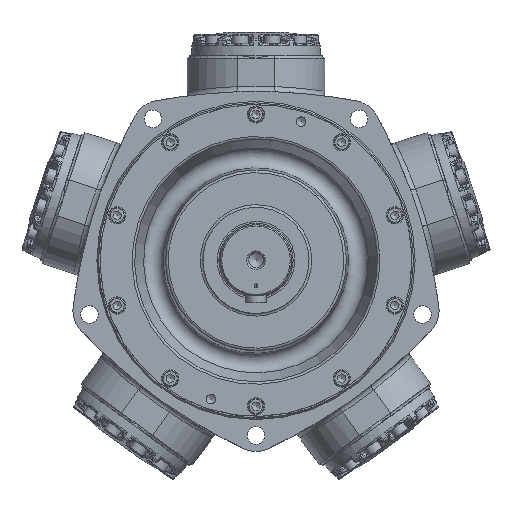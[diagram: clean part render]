
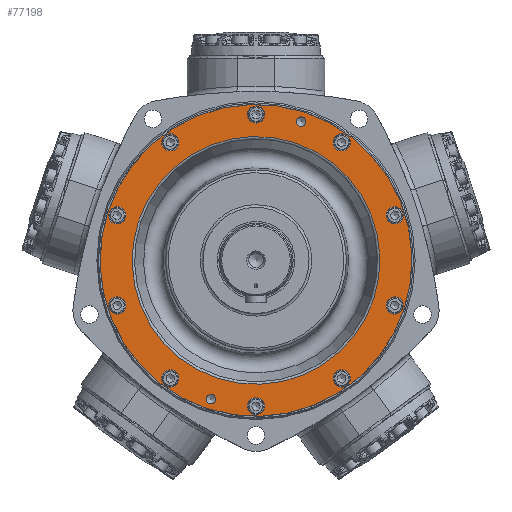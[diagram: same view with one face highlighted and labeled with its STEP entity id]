
A CAD part, top view. The second image highlights one B-rep face of the part: STEP entity #77198.
In plain terms, the highlighted planar face has unit normal (0, 0, 1).
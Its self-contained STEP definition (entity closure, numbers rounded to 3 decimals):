
#2918=FACE_BOUND('',#18618,.T.);
#2919=FACE_BOUND('',#18619,.T.);
#2920=FACE_BOUND('',#18620,.T.);
#2921=FACE_BOUND('',#18621,.T.);
#2922=FACE_BOUND('',#18622,.T.);
#2923=FACE_BOUND('',#18623,.T.);
#2924=FACE_BOUND('',#18624,.T.);
#2925=FACE_BOUND('',#18625,.T.);
#2926=FACE_BOUND('',#18626,.T.);
#2927=FACE_BOUND('',#18627,.T.);
#2928=FACE_BOUND('',#18628,.T.);
#2929=FACE_BOUND('',#18629,.T.);
#2930=FACE_BOUND('',#18630,.T.);
#5169=CIRCLE('',#82765,148.273);
#5180=CIRCLE('',#82784,186.628);
#5181=CIRCLE('',#82785,5.664);
#5182=CIRCLE('',#82786,5.664);
#5183=CIRCLE('',#82787,10.319);
#5184=CIRCLE('',#82788,10.319);
#5185=CIRCLE('',#82789,10.319);
#5186=CIRCLE('',#82790,10.319);
#5187=CIRCLE('',#82791,10.319);
#5188=CIRCLE('',#82792,10.319);
#5189=CIRCLE('',#82793,10.319);
#5190=CIRCLE('',#82794,10.319);
#5191=CIRCLE('',#82795,10.319);
#5192=CIRCLE('',#82796,10.319);
#13693=FACE_OUTER_BOUND('',#18617,.T.);
#18617=EDGE_LOOP('',(#56380));
#18618=EDGE_LOOP('',(#56381));
#18619=EDGE_LOOP('',(#56382));
#18620=EDGE_LOOP('',(#56383));
#18621=EDGE_LOOP('',(#56384));
#18622=EDGE_LOOP('',(#56385));
#18623=EDGE_LOOP('',(#56386));
#18624=EDGE_LOOP('',(#56387));
#18625=EDGE_LOOP('',(#56388));
#18626=EDGE_LOOP('',(#56389));
#18627=EDGE_LOOP('',(#56390));
#18628=EDGE_LOOP('',(#56391));
#18629=EDGE_LOOP('',(#56392));
#18630=EDGE_LOOP('',(#56393));
#31436=VERTEX_POINT('',#153447);
#31445=VERTEX_POINT('',#153479);
#31446=VERTEX_POINT('',#153481);
#31447=VERTEX_POINT('',#153483);
#31448=VERTEX_POINT('',#153485);
#31449=VERTEX_POINT('',#153487);
#31450=VERTEX_POINT('',#153489);
#31451=VERTEX_POINT('',#153491);
#31452=VERTEX_POINT('',#153493);
#31453=VERTEX_POINT('',#153495);
#31454=VERTEX_POINT('',#153497);
#31455=VERTEX_POINT('',#153499);
#31456=VERTEX_POINT('',#153501);
#31457=VERTEX_POINT('',#153503);
#40143=EDGE_CURVE('',#31436,#31436,#5169,.T.);
#40157=EDGE_CURVE('',#31445,#31445,#5180,.T.);
#40158=EDGE_CURVE('',#31446,#31446,#5181,.T.);
#40159=EDGE_CURVE('',#31447,#31447,#5182,.T.);
#40160=EDGE_CURVE('',#31448,#31448,#5183,.T.);
#40161=EDGE_CURVE('',#31449,#31449,#5184,.T.);
#40162=EDGE_CURVE('',#31450,#31450,#5185,.T.);
#40163=EDGE_CURVE('',#31451,#31451,#5186,.T.);
#40164=EDGE_CURVE('',#31452,#31452,#5187,.T.);
#40165=EDGE_CURVE('',#31453,#31453,#5188,.T.);
#40166=EDGE_CURVE('',#31454,#31454,#5189,.T.);
#40167=EDGE_CURVE('',#31455,#31455,#5190,.T.);
#40168=EDGE_CURVE('',#31456,#31456,#5191,.T.);
#40169=EDGE_CURVE('',#31457,#31457,#5192,.T.);
#56380=ORIENTED_EDGE('',*,*,#40157,.T.);
#56381=ORIENTED_EDGE('',*,*,#40158,.T.);
#56382=ORIENTED_EDGE('',*,*,#40159,.T.);
#56383=ORIENTED_EDGE('',*,*,#40160,.T.);
#56384=ORIENTED_EDGE('',*,*,#40161,.T.);
#56385=ORIENTED_EDGE('',*,*,#40162,.T.);
#56386=ORIENTED_EDGE('',*,*,#40163,.T.);
#56387=ORIENTED_EDGE('',*,*,#40164,.T.);
#56388=ORIENTED_EDGE('',*,*,#40165,.T.);
#56389=ORIENTED_EDGE('',*,*,#40166,.T.);
#56390=ORIENTED_EDGE('',*,*,#40167,.T.);
#56391=ORIENTED_EDGE('',*,*,#40168,.T.);
#56392=ORIENTED_EDGE('',*,*,#40169,.T.);
#56393=ORIENTED_EDGE('',*,*,#40143,.F.);
#69711=PLANE('',#82783);
#77198=ADVANCED_FACE('',(#13693,#2918,#2919,#2920,#2921,#2922,#2923,#2924,
#2925,#2926,#2927,#2928,#2929,#2930),#69711,.T.);
#82765=AXIS2_PLACEMENT_3D('',#153449,#93386,#93387);
#82783=AXIS2_PLACEMENT_3D('',#153478,#93425,#93426);
#82784=AXIS2_PLACEMENT_3D('',#153480,#93427,#93428);
#82785=AXIS2_PLACEMENT_3D('',#153482,#93429,#93430);
#82786=AXIS2_PLACEMENT_3D('',#153484,#93431,#93432);
#82787=AXIS2_PLACEMENT_3D('',#153486,#93433,#93434);
#82788=AXIS2_PLACEMENT_3D('',#153488,#93435,#93436);
#82789=AXIS2_PLACEMENT_3D('',#153490,#93437,#93438);
#82790=AXIS2_PLACEMENT_3D('',#153492,#93439,#93440);
#82791=AXIS2_PLACEMENT_3D('',#153494,#93441,#93442);
#82792=AXIS2_PLACEMENT_3D('',#153496,#93443,#93444);
#82793=AXIS2_PLACEMENT_3D('',#153498,#93445,#93446);
#82794=AXIS2_PLACEMENT_3D('',#153500,#93447,#93448);
#82795=AXIS2_PLACEMENT_3D('',#153502,#93449,#93450);
#82796=AXIS2_PLACEMENT_3D('',#153504,#93451,#93452);
#93386=DIRECTION('center_axis',(0.,0.,
1.));
#93387=DIRECTION('ref_axis',(-0.309,-0.951,0.));
#93425=DIRECTION('center_axis',(0.,0.,
1.));
#93426=DIRECTION('ref_axis',(0.951,-0.309,0.));
#93427=DIRECTION('center_axis',(0.,0.,
1.));
#93428=DIRECTION('ref_axis',(0.309,0.951,0.));
#93429=DIRECTION('center_axis',(0.,0.,
-1.));
#93430=DIRECTION('ref_axis',(0.951,-0.309,0.));
#93431=DIRECTION('center_axis',(0.,0.,
-1.));
#93432=DIRECTION('ref_axis',(0.951,-0.309,0.));
#93433=DIRECTION('center_axis',(0.,0.,
-1.));
#93434=DIRECTION('ref_axis',(-0.588,0.809,0.));
#93435=DIRECTION('center_axis',(0.,0.,
-1.));
#93436=DIRECTION('ref_axis',(0.,1.,0.));
#93437=DIRECTION('center_axis',(0.,0.,
-1.));
#93438=DIRECTION('ref_axis',(0.588,0.809,0.));
#93439=DIRECTION('center_axis',(0.,0.,
-1.));
#93440=DIRECTION('ref_axis',(0.951,0.309,0.));
#93441=DIRECTION('center_axis',(0.,0.,
-1.));
#93442=DIRECTION('ref_axis',(0.951,-0.309,0.));
#93443=DIRECTION('center_axis',(0.,0.,
-1.));
#93444=DIRECTION('ref_axis',(0.588,-0.809,0.));
#93445=DIRECTION('center_axis',(0.,0.,
-1.));
#93446=DIRECTION('ref_axis',(0.,-1.,0.));
#93447=DIRECTION('center_axis',(0.,0.,
-1.));
#93448=DIRECTION('ref_axis',(-0.588,-0.809,0.));
#93449=DIRECTION('center_axis',(0.,0.,
-1.));
#93450=DIRECTION('ref_axis',(-0.951,-0.309,0.));
#93451=DIRECTION('center_axis',(0.,0.,
-1.));
#93452=DIRECTION('ref_axis',(-0.951,0.309,0.));
#153447=CARTESIAN_POINT('',(-141.016,45.819,119.254));
#153449=CARTESIAN_POINT('Origin',(0.,0.,
119.254));
#153478=CARTESIAN_POINT('Origin',(52.49,161.549,119.254));
#153479=CARTESIAN_POINT('',(-57.671,-177.493,119.254));
#153480=CARTESIAN_POINT('Origin',(0.,0.,
119.254));
#153481=CARTESIAN_POINT('',(48.575,167.829,119.254));
#153482=CARTESIAN_POINT('Origin',(53.962,166.078,119.254));
#153483=CARTESIAN_POINT('',(-59.349,-164.328,119.254));
#153484=CARTESIAN_POINT('Origin',(-53.962,-166.078,119.254));
#153485=CARTESIAN_POINT('',(108.707,-149.623,119.254));
#153486=CARTESIAN_POINT('Origin',(102.642,-141.275,119.254));
#153487=CARTESIAN_POINT('',(0.,-184.944,119.254));
#153488=CARTESIAN_POINT('Origin',(0.,-174.625,119.254));
#153489=CARTESIAN_POINT('',(-108.707,-149.623,119.254));
#153490=CARTESIAN_POINT('Origin',(-102.642,-141.275,119.254));
#153491=CARTESIAN_POINT('',(-175.892,-57.151,119.254));
#153492=CARTESIAN_POINT('Origin',(-166.078,-53.962,119.254));
#153493=CARTESIAN_POINT('',(-175.892,57.151,119.254));
#153494=CARTESIAN_POINT('Origin',(-166.078,53.962,119.254));
#153495=CARTESIAN_POINT('',(-108.707,149.623,119.254));
#153496=CARTESIAN_POINT('Origin',(-102.642,141.275,119.254));
#153497=CARTESIAN_POINT('',(0.,184.944,119.254));
#153498=CARTESIAN_POINT('Origin',(0.,174.625,119.254));
#153499=CARTESIAN_POINT('',(108.707,149.623,119.254));
#153500=CARTESIAN_POINT('Origin',(102.642,141.275,119.254));
#153501=CARTESIAN_POINT('',(175.892,57.151,119.254));
#153502=CARTESIAN_POINT('Origin',(166.078,53.962,119.254));
#153503=CARTESIAN_POINT('',(175.892,-57.151,119.254));
#153504=CARTESIAN_POINT('Origin',(166.078,-53.962,119.254));
